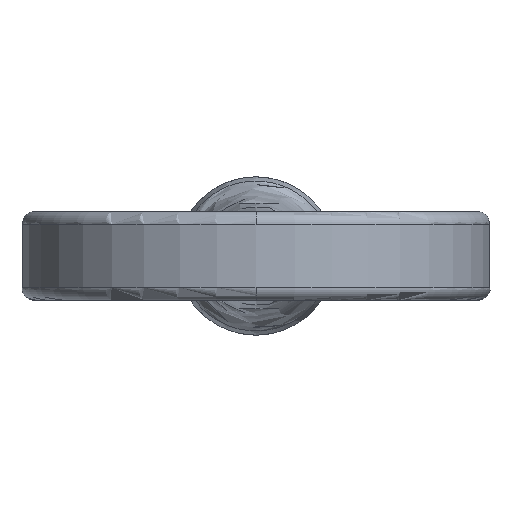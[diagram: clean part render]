
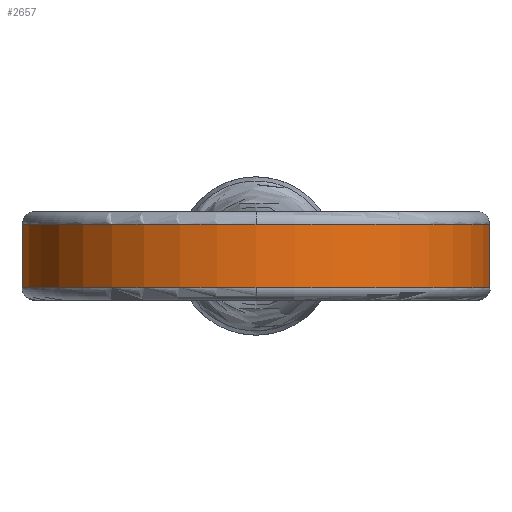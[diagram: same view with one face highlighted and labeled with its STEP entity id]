
A CAD part, left-side view. The second image highlights one B-rep face of the part: STEP entity #2657.
In plain terms, the highlighted cylindrical face has radius 18.5 mm (diameter 37 mm), a partial arc.
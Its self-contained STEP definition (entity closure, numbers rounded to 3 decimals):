
#172=FACE_OUTER_BOUND('',#319,.T.);
#319=EDGE_LOOP('',(#2012,#2013,#2014,#2015,#2016,#2017));
#412=CIRCLE('',#2826,18.5);
#416=CIRCLE('',#2831,18.5);
#429=CIRCLE('',#2846,18.5);
#431=CIRCLE('',#2849,18.5);
#634=B_SPLINE_CURVE_WITH_KNOTS('',3,(#6705,#6706,#6707,#6708,#6709),
 .UNSPECIFIED.,.F.,.F.,(4,1,4),(-0.511,-0.255,0.),
 .UNSPECIFIED.);
#637=B_SPLINE_CURVE_WITH_KNOTS('',3,(#6787,#6788,#6789,#6790,#6791),
 .UNSPECIFIED.,.F.,.F.,(4,1,4),(-0.511,-0.255,0.),
 .UNSPECIFIED.);
#1128=VERTEX_POINT('',#6084);
#1130=VERTEX_POINT('',#6087);
#1134=VERTEX_POINT('',#6106);
#1137=VERTEX_POINT('',#6119);
#1152=VERTEX_POINT('',#6730);
#1153=VERTEX_POINT('',#6756);
#1462=EDGE_CURVE('',#1128,#1130,#412,.T.);
#1470=EDGE_CURVE('',#1137,#1134,#416,.T.);
#1498=EDGE_CURVE('',#1130,#1137,#634,.T.);
#1503=EDGE_CURVE('',#1153,#1152,#637,.T.);
#1504=EDGE_CURVE('',#1134,#1153,#429,.T.);
#1506=EDGE_CURVE('',#1152,#1128,#431,.T.);
#2012=ORIENTED_EDGE('',*,*,#1498,.F.);
#2013=ORIENTED_EDGE('',*,*,#1462,.F.);
#2014=ORIENTED_EDGE('',*,*,#1506,.F.);
#2015=ORIENTED_EDGE('',*,*,#1503,.F.);
#2016=ORIENTED_EDGE('',*,*,#1504,.F.);
#2017=ORIENTED_EDGE('',*,*,#1470,.F.);
#2543=CYLINDRICAL_SURFACE('',#2848,18.5);
#2657=ADVANCED_FACE('',(#172),#2543,.T.);
#2826=AXIS2_PLACEMENT_3D('',#6088,#3203,#3204);
#2831=AXIS2_PLACEMENT_3D('',#6124,#3213,#3214);
#2846=AXIS2_PLACEMENT_3D('',#6793,#3244,#3245);
#2848=AXIS2_PLACEMENT_3D('',#6795,#3248,#3249);
#2849=AXIS2_PLACEMENT_3D('',#6796,#3250,#3251);
#3203=DIRECTION('center_axis',(0.,0.,-1.));
#3204=DIRECTION('ref_axis',(1.,0.,0.));
#3213=DIRECTION('center_axis',(0.,0.,1.));
#3214=DIRECTION('ref_axis',(1.,0.,0.));
#3244=DIRECTION('center_axis',(0.,0.,1.));
#3245=DIRECTION('ref_axis',(1.,0.,0.));
#3248=DIRECTION('center_axis',(0.,0.,1.));
#3249=DIRECTION('ref_axis',(-1.,0.,0.));
#3250=DIRECTION('center_axis',(0.,0.,-1.));
#3251=DIRECTION('ref_axis',(1.,0.,0.));
#6084=CARTESIAN_POINT('',(-18.5,0.,1.));
#6087=CARTESIAN_POINT('',(17.563,5.814,1.));
#6088=CARTESIAN_POINT('Origin',(0.,0.,1.));
#6106=CARTESIAN_POINT('',(-18.5,0.,6.));
#6119=CARTESIAN_POINT('',(17.563,5.814,6.));
#6124=CARTESIAN_POINT('Origin',(0.,0.,6.));
#6705=CARTESIAN_POINT('Ctrl Pts',(17.563,5.814,1.));
#6706=CARTESIAN_POINT('Ctrl Pts',(17.486,6.046,1.798));
#6707=CARTESIAN_POINT('Ctrl Pts',(17.398,6.287,3.5));
#6708=CARTESIAN_POINT('Ctrl Pts',(17.486,6.046,5.202));
#6709=CARTESIAN_POINT('Ctrl Pts',(17.563,5.814,6.));
#6730=CARTESIAN_POINT('',(17.563,-5.814,1.));
#6756=CARTESIAN_POINT('',(17.563,-5.814,6.));
#6787=CARTESIAN_POINT('Ctrl Pts',(17.563,-5.814,6.));
#6788=CARTESIAN_POINT('Ctrl Pts',(17.486,-6.046,5.202));
#6789=CARTESIAN_POINT('Ctrl Pts',(17.398,-6.287,3.5));
#6790=CARTESIAN_POINT('Ctrl Pts',(17.486,-6.046,1.798));
#6791=CARTESIAN_POINT('Ctrl Pts',(17.563,-5.814,1.));
#6793=CARTESIAN_POINT('Origin',(0.,0.,6.));
#6795=CARTESIAN_POINT('Origin',(0.,0.,0.));
#6796=CARTESIAN_POINT('Origin',(0.,0.,1.));
